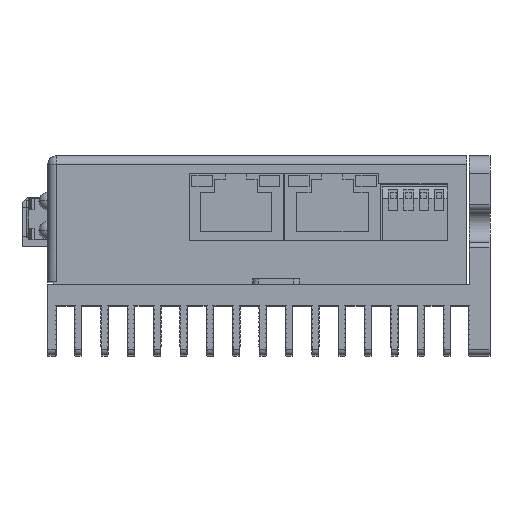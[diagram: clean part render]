
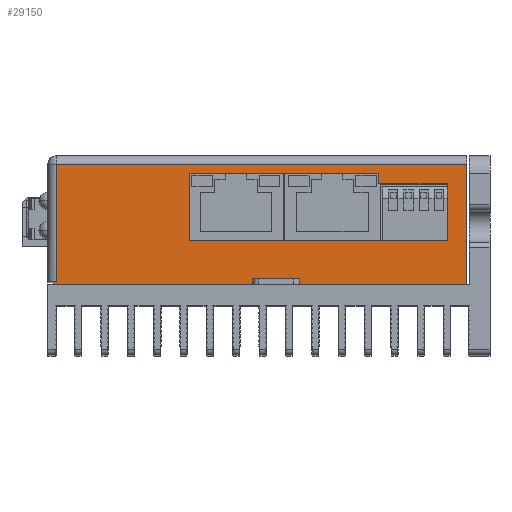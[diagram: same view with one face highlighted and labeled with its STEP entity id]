
A CAD part, top view. The second image highlights one B-rep face of the part: STEP entity #29150.
In plain terms, the highlighted planar face has unit normal (0, 0, 1).
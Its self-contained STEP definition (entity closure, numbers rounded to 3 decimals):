
#3780=DIRECTION('',(-1.,0.,0.));
#3781=VECTOR('',#3780,28.5);
#3782=CARTESIAN_POINT('',(-4.,3.5,61.25));
#3783=LINE('',#3782,#3781);
#3818=DIRECTION('',(1.,0.,0.));
#3819=VECTOR('',#3818,34.);
#3820=CARTESIAN_POINT('',(-74.5,3.5,61.25));
#3821=LINE('',#3820,#3819);
#11284=DIRECTION('',(0.,1.,0.));
#11285=VECTOR('',#11284,9.7);
#11286=CARTESIAN_POINT('',(-7.31,11.,61.25));
#11287=LINE('',#11286,#11285);
#11288=DIRECTION('',(-1.,0.,0.));
#11289=VECTOR('',#11288,11.69);
#11290=CARTESIAN_POINT('',(-7.31,20.7,61.25));
#11291=LINE('',#11290,#11289);
#11292=DIRECTION('',(0.,1.,0.));
#11293=VECTOR('',#11292,1.8);
#11294=CARTESIAN_POINT('',(-19.,20.7,61.25));
#11295=LINE('',#11294,#11293);
#11296=DIRECTION('',(-1.,0.,0.));
#11297=VECTOR('',#11296,32.3);
#11298=CARTESIAN_POINT('',(-19.,22.5,61.25));
#11299=LINE('',#11298,#11297);
#11300=DIRECTION('',(0.,-1.,0.));
#11301=VECTOR('',#11300,11.5);
#11302=CARTESIAN_POINT('',(-51.3,22.5,61.25));
#11303=LINE('',#11302,#11301);
#11304=DIRECTION('',(1.,0.,0.));
#11305=VECTOR('',#11304,43.99);
#11306=CARTESIAN_POINT('',(-51.3,11.,61.25));
#11307=LINE('',#11306,#11305);
#11308=DIRECTION('',(-1.,0.,0.));
#11309=VECTOR('',#11308,70.);
#11310=CARTESIAN_POINT('',(-4.,24.,61.25));
#11311=LINE('',#11310,#11309);
#11312=DIRECTION('',(0.,1.,0.));
#11313=VECTOR('',#11312,20.5);
#11314=CARTESIAN_POINT('',(-4.,3.5,61.25));
#11315=LINE('',#11314,#11313);
#11316=DIRECTION('',(0.,1.,0.));
#11317=VECTOR('',#11316,1.);
#11318=CARTESIAN_POINT('',(-32.5,3.5,61.25));
#11319=LINE('',#11318,#11317);
#11320=DIRECTION('',(0.,1.,0.));
#11321=VECTOR('',#11320,0.5);
#11322=CARTESIAN_POINT('',(-74.5,3.5,61.25));
#11323=LINE('',#11322,#11321);
#11324=DIRECTION('',(-1.,0.,0.));
#11325=VECTOR('',#11324,0.5);
#11326=CARTESIAN_POINT('',(-74.,4.,61.25));
#11327=LINE('',#11326,#11325);
#11328=DIRECTION('',(0.,-1.,0.));
#11329=VECTOR('',#11328,20.);
#11330=CARTESIAN_POINT('',(-74.,24.,61.25));
#11331=LINE('',#11330,#11329);
#12507=DIRECTION('',(-1.,0.,0.));
#12508=VECTOR('',#12507,8.);
#12509=CARTESIAN_POINT('',(-32.5,4.5,61.25));
#12510=LINE('',#12509,#12508);
#12585=DIRECTION('',(0.,1.,0.));
#12586=VECTOR('',#12585,1.);
#12587=CARTESIAN_POINT('',(-40.5,3.5,61.25));
#12588=LINE('',#12587,#12586);
#14527=CARTESIAN_POINT('',(-40.5,3.5,61.25));
#14529=VERTEX_POINT('',#14527);
#14537=CARTESIAN_POINT('',(-32.5,3.5,61.25));
#14538=VERTEX_POINT('',#14537);
#14583=CARTESIAN_POINT('',(-40.5,4.5,61.25));
#14585=VERTEX_POINT('',#14583);
#14593=CARTESIAN_POINT('',(-32.5,4.5,61.25));
#14594=VERTEX_POINT('',#14593);
#15387=CARTESIAN_POINT('',(-7.31,11.,61.25));
#15388=CARTESIAN_POINT('',(-7.31,20.7,61.25));
#15389=VERTEX_POINT('',#15387);
#15390=VERTEX_POINT('',#15388);
#15391=CARTESIAN_POINT('',(-19.,20.7,61.25));
#15392=VERTEX_POINT('',#15391);
#15393=CARTESIAN_POINT('',(-19.,22.5,61.25));
#15394=VERTEX_POINT('',#15393);
#15395=CARTESIAN_POINT('',(-51.3,22.5,61.25));
#15396=VERTEX_POINT('',#15395);
#15397=CARTESIAN_POINT('',(-51.3,11.,61.25));
#15398=VERTEX_POINT('',#15397);
#15723=CARTESIAN_POINT('',(-74.,4.,61.25));
#15725=VERTEX_POINT('',#15723);
#15741=CARTESIAN_POINT('',(-74.,24.,61.25));
#15742=VERTEX_POINT('',#15741);
#15743=CARTESIAN_POINT('',(-4.,24.,61.25));
#15744=VERTEX_POINT('',#15743);
#15803=CARTESIAN_POINT('',(-74.5,3.5,61.25));
#15804=VERTEX_POINT('',#15803);
#15805=CARTESIAN_POINT('',(-4.,3.5,61.25));
#15806=VERTEX_POINT('',#15805);
#15809=CARTESIAN_POINT('',(-74.5,4.,61.25));
#15810=VERTEX_POINT('',#15809);
#29113=CARTESIAN_POINT('',(-32.5,3.5,61.25));
#29114=DIRECTION('',(0.,0.,1.));
#29115=DIRECTION('',(1.,0.,0.));
#29116=AXIS2_PLACEMENT_3D('',#29113,#29114,#29115);
#29117=PLANE('',#29116);
#29118=ORIENTED_EDGE('',*,*,#29103,.F.);
#29120=ORIENTED_EDGE('',*,*,#29119,.F.);
#29121=ORIENTED_EDGE('',*,*,#17520,.T.);
#29123=ORIENTED_EDGE('',*,*,#29122,.T.);
#29125=ORIENTED_EDGE('',*,*,#29124,.T.);
#29127=ORIENTED_EDGE('',*,*,#29126,.F.);
#29128=ORIENTED_EDGE('',*,*,#17540,.F.);
#29130=ORIENTED_EDGE('',*,*,#29129,.T.);
#29132=ORIENTED_EDGE('',*,*,#29131,.F.);
#29133=ORIENTED_EDGE('',*,*,#29077,.F.);
#29134=EDGE_LOOP('',(#29118,#29120,#29121,#29123,#29125,#29127,#29128,#29130,
#29132,#29133));
#29135=FACE_OUTER_BOUND('',#29134,.F.);
#29137=ORIENTED_EDGE('',*,*,#29136,.T.);
#29139=ORIENTED_EDGE('',*,*,#29138,.T.);
#29141=ORIENTED_EDGE('',*,*,#29140,.T.);
#29143=ORIENTED_EDGE('',*,*,#29142,.T.);
#29145=ORIENTED_EDGE('',*,*,#29144,.T.);
#29147=ORIENTED_EDGE('',*,*,#29146,.T.);
#29148=EDGE_LOOP('',(#29137,#29139,#29141,#29143,#29145,#29147));
#29149=FACE_BOUND('',#29148,.F.);
#17520=EDGE_CURVE('',#15806,#14538,#3783,.T.);
#17540=EDGE_CURVE('',#15804,#14529,#3821,.T.);
#29077=EDGE_CURVE('',#15742,#15725,#11331,.T.);
#29103=EDGE_CURVE('',#15744,#15742,#11311,.T.);
#29119=EDGE_CURVE('',#15806,#15744,#11315,.T.);
#29122=EDGE_CURVE('',#14538,#14594,#11319,.T.);
#29124=EDGE_CURVE('',#14594,#14585,#12510,.T.);
#29126=EDGE_CURVE('',#14529,#14585,#12588,.T.);
#29129=EDGE_CURVE('',#15804,#15810,#11323,.T.);
#29131=EDGE_CURVE('',#15725,#15810,#11327,.T.);
#29136=EDGE_CURVE('',#15389,#15390,#11287,.T.);
#29138=EDGE_CURVE('',#15390,#15392,#11291,.T.);
#29140=EDGE_CURVE('',#15392,#15394,#11295,.T.);
#29142=EDGE_CURVE('',#15394,#15396,#11299,.T.);
#29144=EDGE_CURVE('',#15396,#15398,#11303,.T.);
#29146=EDGE_CURVE('',#15398,#15389,#11307,.T.);
#29150=ADVANCED_FACE('',(#29135,#29149),#29117,.T.);
